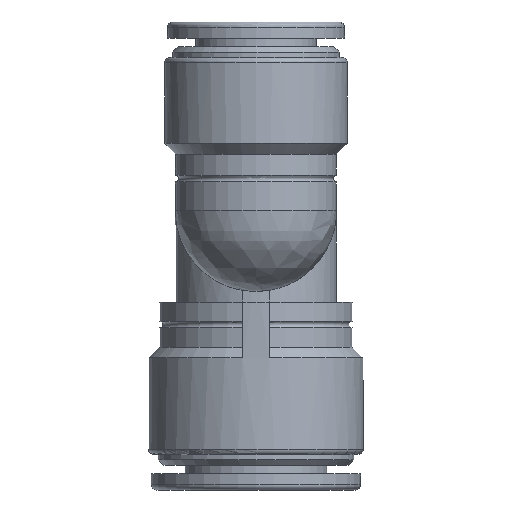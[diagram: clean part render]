
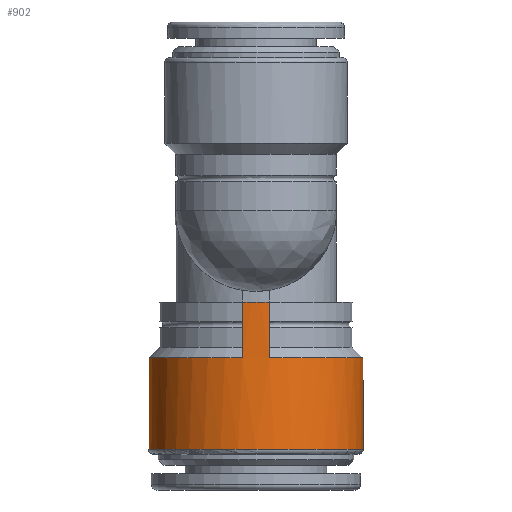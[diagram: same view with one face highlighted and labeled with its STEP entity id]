
A CAD part, left-side view. The second image highlights one B-rep face of the part: STEP entity #902.
In plain terms, the highlighted cylindrical face has radius 10 mm (diameter 20 mm), a full revolution.
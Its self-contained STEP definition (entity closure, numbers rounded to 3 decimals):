
#267=CARTESIAN_POINT('',(-9.922,1.25,8.4));
#268=VERTEX_POINT('',#267);
#284=CARTESIAN_POINT('',(-9.922,1.25,13.6));
#285=VERTEX_POINT('',#284);
#286=CARTESIAN_POINT('',(-9.922,1.25,13.6));
#287=DIRECTION('',(0.0,0.0,-1.0));
#288=VECTOR('',#287,5.2);
#289=LINE('',#286,#288);
#290=EDGE_CURVE('',#285,#268,#289,.T.);
#354=CARTESIAN_POINT('',(-9.922,-1.25,8.4));
#355=VERTEX_POINT('',#354);
#415=CARTESIAN_POINT('',(-9.922,-1.25,13.6));
#416=VERTEX_POINT('',#415);
#423=CARTESIAN_POINT('',(-9.922,-1.25,13.6));
#424=DIRECTION('',(0.0,0.0,-1.0));
#425=VECTOR('',#424,5.2);
#426=LINE('',#423,#425);
#427=EDGE_CURVE('',#416,#355,#426,.T.);
#485=CARTESIAN_POINT('',(9.922,-1.25,8.4));
#486=VERTEX_POINT('',#485);
#500=CARTESIAN_POINT('',(9.922,-1.25,13.6));
#501=VERTEX_POINT('',#500);
#502=CARTESIAN_POINT('',(9.922,-1.25,13.6));
#503=DIRECTION('',(0.0,0.0,-1.0));
#504=VECTOR('',#503,5.2);
#505=LINE('',#502,#504);
#506=EDGE_CURVE('',#501,#486,#505,.T.);
#532=CARTESIAN_POINT('',(9.922,1.25,13.6));
#533=VERTEX_POINT('',#532);
#540=CARTESIAN_POINT('',(9.922,1.25,8.4));
#541=VERTEX_POINT('',#540);
#542=CARTESIAN_POINT('',(9.922,1.25,13.6));
#543=DIRECTION('',(0.0,0.0,-1.0));
#544=VECTOR('',#543,5.2);
#545=LINE('',#542,#544);
#546=EDGE_CURVE('',#533,#541,#545,.T.);
#616=CARTESIAN_POINT('',(0.0,0.0,8.4));
#617=DIRECTION('',(0.0,0.0,1.0));
#618=DIRECTION('',(1.0,0.0,0.0));
#619=AXIS2_PLACEMENT_3D('',#616,#617,#618);
#620=CIRCLE('',#619,10.0);
#621=EDGE_CURVE('',#355,#486,#620,.T.);
#632=CARTESIAN_POINT('',(0.0,0.0,8.4));
#633=DIRECTION('',(0.0,0.0,1.0));
#634=DIRECTION('',(1.0,0.0,0.0));
#635=AXIS2_PLACEMENT_3D('',#632,#633,#634);
#636=CIRCLE('',#635,10.0);
#637=EDGE_CURVE('',#541,#268,#636,.T.);
#765=CARTESIAN_POINT('',(0.0,0.0,13.6));
#766=DIRECTION('',(0.0,0.0,-1.));
#767=DIRECTION('',(0.992,-0.125,0.0));
#768=AXIS2_PLACEMENT_3D('',#765,#766,#767);
#769=CIRCLE('',#768,10.0);
#770=EDGE_CURVE('',#416,#285,#769,.T.);
#775=CARTESIAN_POINT('',(0.0,0.0,13.6));
#776=DIRECTION('',(0.0,0.0,-1.0));
#777=DIRECTION('',(-0.992,0.125,0.0));
#778=AXIS2_PLACEMENT_3D('',#775,#776,#777);
#779=CIRCLE('',#778,10.0);
#780=EDGE_CURVE('',#533,#501,#779,.T.);
#872=CARTESIAN_POINT('',(-10.0,0.,-0.1));
#873=VERTEX_POINT('',#872);
#874=CARTESIAN_POINT('',(0.0,0.0,-0.1));
#875=DIRECTION('',(0.0,0.0,-1.0));
#876=DIRECTION('',(1.0,0.0,0.0));
#877=AXIS2_PLACEMENT_3D('',#874,#875,#876);
#878=CIRCLE('',#877,10.0);
#879=EDGE_CURVE('',#873,#873,#878,.T.);
#884=CARTESIAN_POINT('',(0.0,0.0,9.4));
#885=DIRECTION('',(0.0,0.0,-1.0));
#886=DIRECTION('',(1.0,0.0,0.0));
#887=AXIS2_PLACEMENT_3D('',#884,#885,#886);
#888=CYLINDRICAL_SURFACE('',#887,10.0);
#889=ORIENTED_EDGE('',*,*,#637,.F.);
#890=ORIENTED_EDGE('',*,*,#546,.F.);
#891=ORIENTED_EDGE('',*,*,#780,.T.);
#892=ORIENTED_EDGE('',*,*,#506,.T.);
#893=ORIENTED_EDGE('',*,*,#621,.F.);
#894=ORIENTED_EDGE('',*,*,#427,.F.);
#895=ORIENTED_EDGE('',*,*,#770,.T.);
#896=ORIENTED_EDGE('',*,*,#290,.T.);
#897=EDGE_LOOP('',(#889,#890,#891,#892,#893,#894,#895,#896));
#898=FACE_OUTER_BOUND('',#897,.T.);
#899=ORIENTED_EDGE('',*,*,#879,.F.);
#900=EDGE_LOOP('',(#899));
#901=FACE_BOUND('',#900,.T.);
#902=ADVANCED_FACE('',(#898,#901),#888,.T.);
